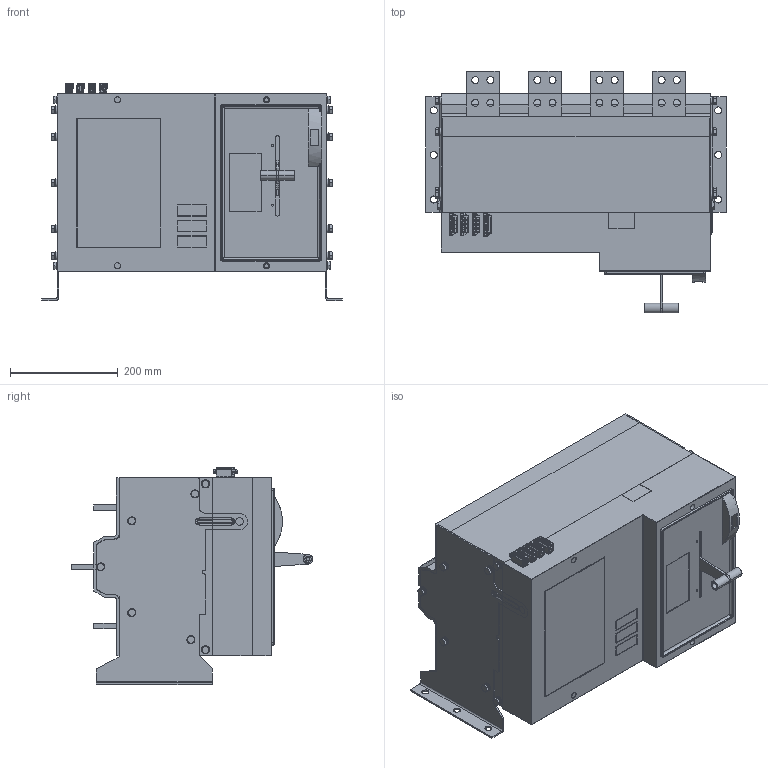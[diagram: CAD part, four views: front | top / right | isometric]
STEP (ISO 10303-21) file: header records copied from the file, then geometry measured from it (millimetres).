
FILE_DESCRIPTION (( 'STEP AP214' ), '1' );
FILE_NAME ('XKQE3150-1250A-4P.STEP', '2023-04-21T02:44:56', ( '' ), ( '' ), 'SwSTEP 2.0', 'SolidWorks 2020', '' );
FILE_SCHEMA (( 'AUTOMOTIVE_DESIGN' ));
Length unit declared in the file: millimetre
Products named in the file (11): 5XKQE-024-102_3_2.STEP.STEP; 8XKQE-003-100___.STEP.STEP; 5XKQE.551.127.3-4.STEP.STEP; XKQE3150-1250A-4P; M8-25________.STEP; 5XKQE.150.101.STEP.STEP; 1_2_1.STEP.STEP; ________.STEP; 8XKQE-253-101_1_1.STEP.STEP; 8XKQE-050-124_3_1.STEP.STEP; 8XKQE-253-102_1_1.STEP.STEP
Assembly tree (26 placements, depth 2):
  XKQE3150-1250A-4P
    8XKQE-050-124_3_1.STEP.STEP
    1_2_1.STEP.STEP
    5XKQE.150.101.STEP.STEP
    8XKQE-253-102_1_1.STEP.STEP  x2
    8XKQE-003-100___.STEP.STEP
    8XKQE-253-101_1_1.STEP.STEP
    5XKQE-024-102_3_2.STEP.STEP
    5XKQE.551.127.3-4.STEP.STEP  x3
    M8-25________.STEP  x14
    ________.STEP
Bounding box: 557 x 448 x 402 mm (x, y, z)
Volume: 44843526.2 mm3; surface area: 2169096 mm2
Topology: 93 solids, 198 shells, 6199 faces, 16097 edges, 10528 vertices
Faces by surface type: plane 3914, cylinder 1481, cone 481, bspline 249, torus 66, sphere 8
Entity records: 187542 total; most frequent: CARTESIAN_POINT 50422, ORIENTED_EDGE 29578, DIRECTION 26175, EDGE_CURVE 14789, VECTOR 10053, LINE 10053, VERTEX_POINT 9698, AXIS2_PLACEMENT_3D 8061
